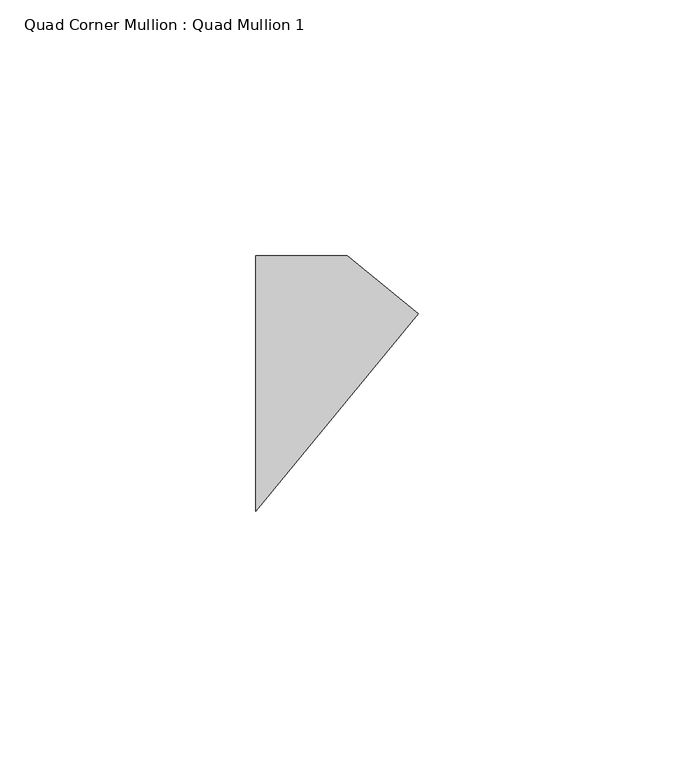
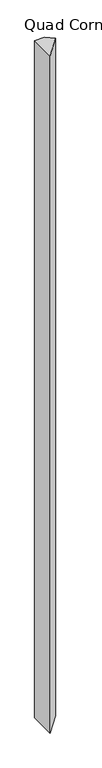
"""IFC4 building model written with IfcOpenShell, lengths in millimetres: member geometry, Quad Corner Mullion : Quad Mullion 1."""

from ifc_helpers import new_model, si_unit, frame, origin, place, context, project, spatial, polyline, outline, extrude, source, transform, mapped, element, save


def quad_corner_mullion_quad_mullion_1_a45d7ef3(model_context):
    return source(origin(), model_context, "Body", "SweptSolid", [
        extrude(outline(polyline([(22.8068923, 13.6086231), (-8.963758, -25.0), (-8.963758, 25.0), (8.963758, 25.0), (22.8068923, 13.6086231)])), frame((0.0, 0.0, -1330.0), z_axis=(0.0, 0.0, 1.0), x_axis=(1.0, 0.0, 0.0)), (0.0, 0.0, 1.0), 1330.0),
    ])


if __name__ == "__main__":
    model = new_model("IFC4")
    model_context = context("Model", 3, world=origin())
    ifc_project = project(units=[si_unit("LENGTHUNIT", "METRE", prefix="MILLI")], contexts=[model_context])
    site = spatial("IfcSite", under=ifc_project)
    building = spatial("IfcBuilding", under=site)
    placement = place(None, origin())
    quad_corner_mullion_quad_mullion_1_shape = quad_corner_mullion_quad_mullion_1_a45d7ef3(model_context)
    element("IfcMember", 1, ObjectType="Quad Corner Mullion : Quad Mullion 1", at=placement, inside=building, context=model_context, shape_type="MappedRepresentation", body=[
        mapped(quad_corner_mullion_quad_mullion_1_shape, transform((0.0, 0.0, 0.0), x_axis=(1.0, 0.0, 0.0), y_axis=(0.0, 1.0, 0.0), z_axis=(0.0, 0.0, 1.0))),
    ])
    save(model, "model.ifc")
